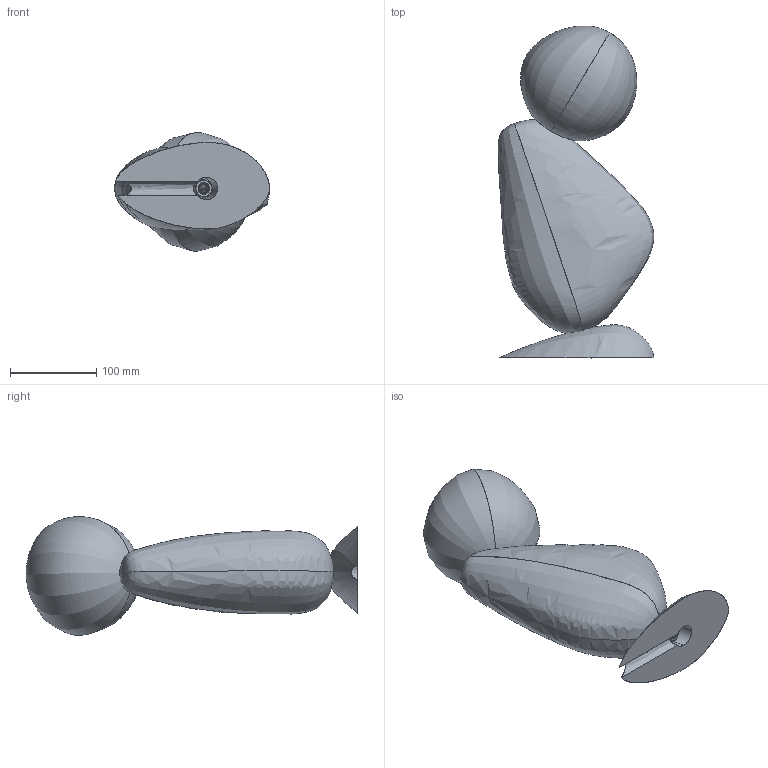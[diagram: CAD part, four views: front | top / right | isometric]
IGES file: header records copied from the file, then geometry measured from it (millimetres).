
Start section: SolidWorks IGES file using analytic representation for surfaces
Global section: file name: Z:\DESIGN\09 BEN LAMP\3D Model\Concept 2\2023.01.17\Other formats\Ben lamp.IGS; native system: SolidWorks 2024; preprocessor: SolidWorks 2024; author: User; date: 240806.122043; units: millimetre
Bounding box: 180.58 x 384.97 x 137.65 mm (x, y, z)
Surface area: 268684.5 mm2 (no closed solid volume)
Topology: 0 solids, 0 shells, 449 faces, 6698 edges, 6665 vertices
Faces by surface type: bspline 227, revolution 222
